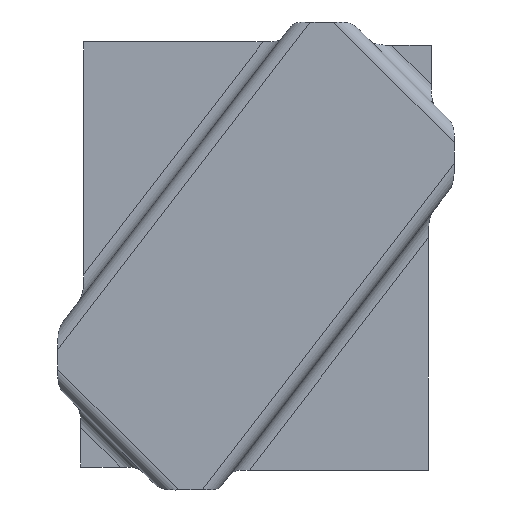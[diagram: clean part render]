
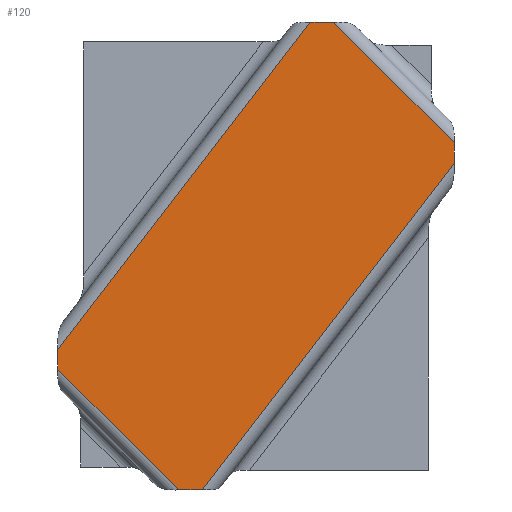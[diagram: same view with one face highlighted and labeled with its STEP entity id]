
A CAD part, top view. The second image highlights one B-rep face of the part: STEP entity #120.
In plain terms, the highlighted planar face has unit normal (0, 0, -1).
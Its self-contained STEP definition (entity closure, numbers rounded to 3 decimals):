
#53=CARTESIAN_POINT('Axis2P3D Location',(-51.268,39.506,65.223)) ;
#59=CARTESIAN_POINT('Control Point',(-51.268,78.899,65.223)) ;
#60=CARTESIAN_POINT('Control Point',(19.322,170.506,65.223)) ;
#61=CARTESIAN_POINT('Vertex',(-51.268,78.899,65.223)) ;
#63=CARTESIAN_POINT('Vertex',(19.322,170.506,65.223)) ;
#66=CARTESIAN_POINT('Line Origine',(4.232,170.506,65.223)) ;
#70=CARTESIAN_POINT('Vertex',(25.906,170.506,65.223)) ;
#74=CARTESIAN_POINT('Control Point',(25.906,170.506,65.223)) ;
#75=CARTESIAN_POINT('Control Point',(59.732,136.68,65.223)) ;
#76=CARTESIAN_POINT('Vertex',(59.732,136.68,65.223)) ;
#79=CARTESIAN_POINT('Line Origine',(59.732,105.006,65.223)) ;
#83=CARTESIAN_POINT('Vertex',(59.732,130.983,65.223)) ;
#87=CARTESIAN_POINT('Control Point',(59.732,130.983,65.223)) ;
#88=CARTESIAN_POINT('Control Point',(-10.757,39.506,65.223)) ;
#89=CARTESIAN_POINT('Vertex',(-10.757,39.506,65.223)) ;
#92=CARTESIAN_POINT('Line Origine',(4.232,39.506,65.223)) ;
#96=CARTESIAN_POINT('Vertex',(-17.442,39.506,65.223)) ;
#100=CARTESIAN_POINT('Control Point',(-51.268,73.331,65.223)) ;
#101=CARTESIAN_POINT('Control Point',(-17.442,39.506,65.223)) ;
#102=CARTESIAN_POINT('Vertex',(-51.268,73.331,65.223)) ;
#105=CARTESIAN_POINT('Line Origine',(-51.268,105.006,65.223)) ;
#54=DIRECTION('Axis2P3D Direction',(0.,0.,1.)) ;
#55=DIRECTION('Axis2P3D XDirection',(1.,0.,0.)) ;
#67=DIRECTION('Vector Direction',(1.,0.,0.)) ;
#80=DIRECTION('Vector Direction',(0.,1.,0.)) ;
#93=DIRECTION('Vector Direction',(1.,0.,0.)) ;
#106=DIRECTION('Vector Direction',(0.,1.,0.)) ;
#56=AXIS2_PLACEMENT_3D('Plane Axis2P3D',#53,#54,#55) ;
#111=ORIENTED_EDGE('',*,*,#65,.T.) ;
#112=ORIENTED_EDGE('',*,*,#72,.T.) ;
#113=ORIENTED_EDGE('',*,*,#78,.T.) ;
#114=ORIENTED_EDGE('',*,*,#85,.T.) ;
#115=ORIENTED_EDGE('',*,*,#91,.T.) ;
#116=ORIENTED_EDGE('',*,*,#98,.T.) ;
#117=ORIENTED_EDGE('',*,*,#104,.F.) ;
#118=ORIENTED_EDGE('',*,*,#109,.T.) ;
#68=VECTOR('Line Direction',#67,1.) ;
#81=VECTOR('Line Direction',#80,1.) ;
#94=VECTOR('Line Direction',#93,1.) ;
#107=VECTOR('Line Direction',#106,1.) ;
#120=ADVANCED_FACE('Offset.1',(#119),#57,.F.) ;
#58=B_SPLINE_CURVE_WITH_KNOTS('',1,(#59,#60),.UNSPECIFIED.,.F.,.U.,(2,2),(-57.824,57.824),.UNSPECIFIED.) ;
#73=B_SPLINE_CURVE_WITH_KNOTS('',1,(#74,#75),.UNSPECIFIED.,.F.,.U.,(2,2),(-23.919,23.919),.UNSPECIFIED.) ;
#86=B_SPLINE_CURVE_WITH_KNOTS('',1,(#87,#88),.UNSPECIFIED.,.F.,.U.,(2,2),(-57.743,57.743),.UNSPECIFIED.) ;
#99=B_SPLINE_CURVE_WITH_KNOTS('',1,(#100,#101),.UNSPECIFIED.,.F.,.U.,(2,2),(-23.919,23.919),.UNSPECIFIED.) ;
#65=EDGE_CURVE('',#62,#64,#58,.T.) ;
#72=EDGE_CURVE('',#64,#71,#69,.T.) ;
#78=EDGE_CURVE('',#71,#77,#73,.T.) ;
#85=EDGE_CURVE('',#77,#84,#82,.F.) ;
#91=EDGE_CURVE('',#84,#90,#86,.T.) ;
#98=EDGE_CURVE('',#90,#97,#95,.F.) ;
#104=EDGE_CURVE('',#103,#97,#99,.T.) ;
#109=EDGE_CURVE('',#103,#62,#108,.T.) ;
#110=EDGE_LOOP('',(#111,#112,#113,#114,#115,#116,#117,#118)) ;
#119=FACE_OUTER_BOUND('',#110,.T.) ;
#69=LINE('Line',#66,#68) ;
#82=LINE('Line',#79,#81) ;
#95=LINE('Line',#92,#94) ;
#108=LINE('Line',#105,#107) ;
#57=PLANE('',#56) ;
#62=VERTEX_POINT('',#61) ;
#64=VERTEX_POINT('',#63) ;
#71=VERTEX_POINT('',#70) ;
#77=VERTEX_POINT('',#76) ;
#84=VERTEX_POINT('',#83) ;
#90=VERTEX_POINT('',#89) ;
#97=VERTEX_POINT('',#96) ;
#103=VERTEX_POINT('',#102) ;
